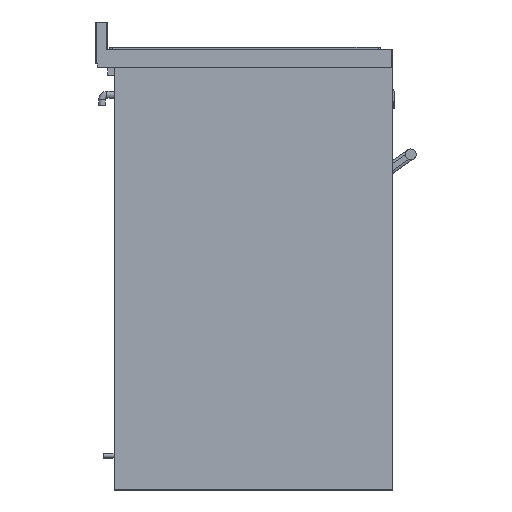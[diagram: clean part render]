
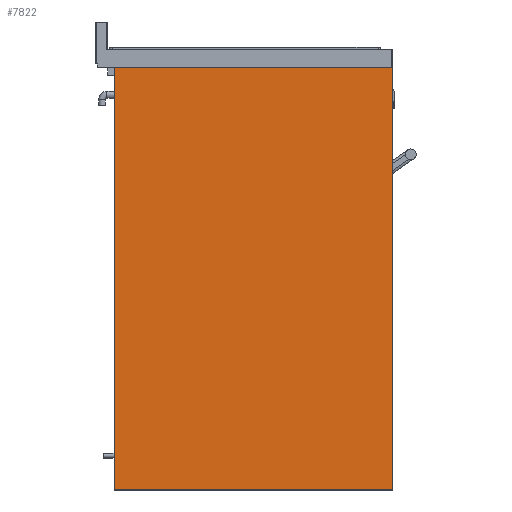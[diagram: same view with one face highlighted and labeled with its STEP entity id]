
A CAD part, left-side view. The second image highlights one B-rep face of the part: STEP entity #7822.
In plain terms, the highlighted planar face has unit normal (-1, 0, 0).
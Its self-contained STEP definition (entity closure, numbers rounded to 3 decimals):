
#2543=LINE('',#38548,#4526);
#2546=LINE('',#38554,#4529);
#2549=LINE('',#38560,#4532);
#2552=LINE('',#38565,#4535);
#4526=VECTOR('',#29797,1.);
#4529=VECTOR('',#29802,1.);
#4532=VECTOR('',#29807,1.);
#4535=VECTOR('',#29812,1.);
#5488=PLANE('',#24630);
#6529=FACE_OUTER_BOUND('',#10207,.T.);
#7822=ADVANCED_FACE('',(#6529),#5488,.F.);
#10207=EDGE_LOOP('',(#15339,#15340,#15341,#15342));
#15339=ORIENTED_EDGE('',*,*,#21376,.F.);
#15340=ORIENTED_EDGE('',*,*,#21385,.F.);
#15341=ORIENTED_EDGE('',*,*,#21382,.F.);
#15342=ORIENTED_EDGE('',*,*,#21379,.F.);
#18513=VERTEX_POINT('',#38547);
#18514=VERTEX_POINT('',#38549);
#18516=VERTEX_POINT('',#38555);
#18518=VERTEX_POINT('',#38561);
#21376=EDGE_CURVE('',#18513,#18514,#2543,.T.);
#21379=EDGE_CURVE('',#18514,#18516,#2546,.T.);
#21382=EDGE_CURVE('',#18516,#18518,#2549,.T.);
#21385=EDGE_CURVE('',#18518,#18513,#2552,.T.);
#24630=AXIS2_PLACEMENT_3D('',#38567,#29815,#29816);
#29797=DIRECTION('',(0.,1.,0.));
#29802=DIRECTION('',(0.,0.,1.));
#29807=DIRECTION('',(0.,-1.,0.));
#29812=DIRECTION('',(0.,0.,-1.));
#29815=DIRECTION('',(1.,0.,0.));
#29816=DIRECTION('',(0.,-1.,0.));
#38547=CARTESIAN_POINT('',(-114.934,-93.192,-11.445));
#38548=CARTESIAN_POINT('',(-114.934,-93.192,-11.445));
#38549=CARTESIAN_POINT('',(-114.934,471.808,-11.445));
#38554=CARTESIAN_POINT('',(-114.934,471.808,-11.445));
#38555=CARTESIAN_POINT('',(-114.934,471.808,846.555));
#38560=CARTESIAN_POINT('',(-114.934,471.808,846.555));
#38561=CARTESIAN_POINT('',(-114.934,-93.192,846.555));
#38565=CARTESIAN_POINT('',(-114.934,-93.192,846.555));
#38567=CARTESIAN_POINT('',(-114.934,471.808,-11.445));
